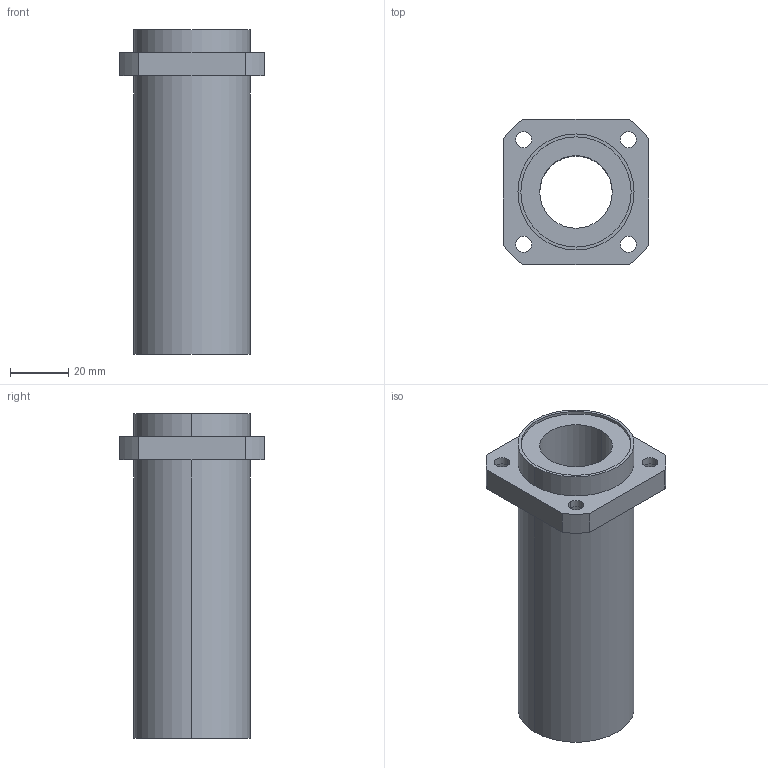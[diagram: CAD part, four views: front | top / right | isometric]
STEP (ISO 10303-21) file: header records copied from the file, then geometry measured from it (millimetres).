
FILE_DESCRIPTION((''),'2;1');
FILE_NAME('C:\Documents and Settings\ｿﾀﾀ蠑ｷ1\ｹﾙﾅﾁ ﾈｭｸ饅\ｺﾎﾇｰﾆﾄﾀﾏ\ﾁｦﾇｰ\LMKP__LUU\LMKP25LUU.stp','2005-06-15T11:14:00',('ｿﾀﾀ蠑ｷ1'),(''),'Autodesk Inventor 9','Autodesk Inventor 9','');
FILE_SCHEMA(('AUTOMOTIVE_DESIGN { 1 0 10303 214 1 1 1 1 }'));
Length unit declared in the file: millimetre
Products named in the file (1): LMKP__
Bounding box: 50 x 50 x 112 mm (x, y, z)
Volume: 92008.7 mm3; surface area: 27916.1 mm2
Topology: 1 solids, 1 shells, 44 faces, 102 edges, 68 vertices
Faces by surface type: cylinder 30, plane 14
Entity records: 1329 total; most frequent: DIRECTION 252, CARTESIAN_POINT 215, ORIENTED_EDGE 204, AXIS2_PLACEMENT_3D 105, EDGE_CURVE 102, VERTEX_POINT 68, EDGE_LOOP 62, CIRCLE 60
